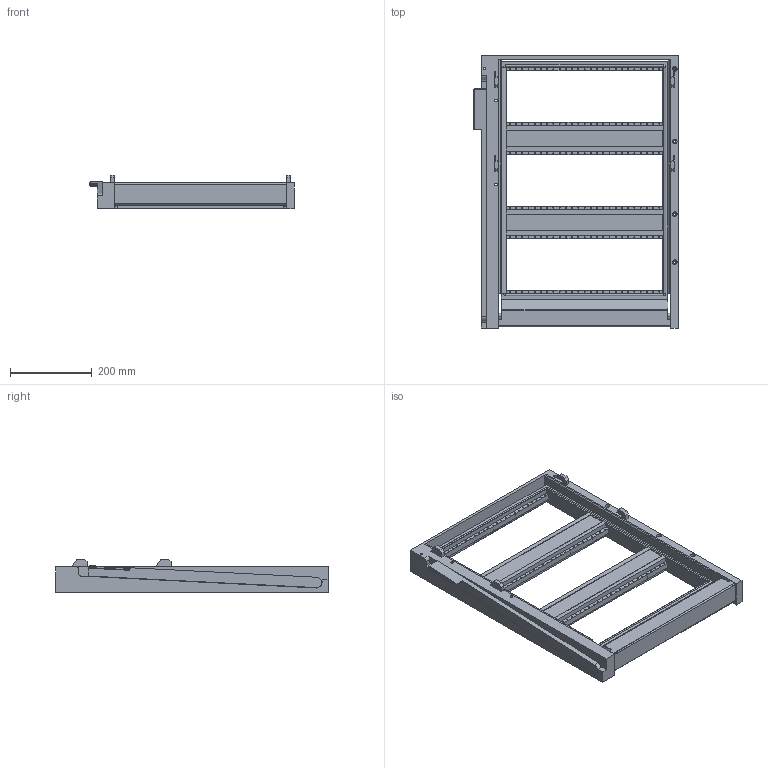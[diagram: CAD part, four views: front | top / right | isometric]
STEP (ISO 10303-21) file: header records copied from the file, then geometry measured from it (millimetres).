
FILE_DESCRIPTION (( 'STEP AP214' ), '1' );
FILE_NAME ('310104375.STEP', '2013-02-11T19:35:22', ( 'VPC Computer Systems' ), ( 'Virginia Panel Corporation' ), 'SwSTEP 2.0', 'SolidWorks 2012', '' );
FILE_SCHEMA (( 'AUTOMOTIVE_DESIGN' ));
Length unit declared in the file: inch
Products named in the file (1): 310104375
Bounding box: 501.65 x 665.99 x 82.98 mm (x, y, z)
Volume: 5214935.1 mm3; surface area: 996687.9 mm2
Topology: 2 solids, 2 shells, 552 faces, 1621 edges, 1076 vertices
Faces by surface type: cylinder 359, plane 185, torus 8
Entity records: 19580 total; most frequent: DIRECTION 3449, CARTESIAN_POINT 3310, ORIENTED_EDGE 3242, EDGE_CURVE 1621, AXIS2_PLACEMENT_3D 1287, VERTEX_POINT 1076, EDGE_LOOP 893, LINE 875
